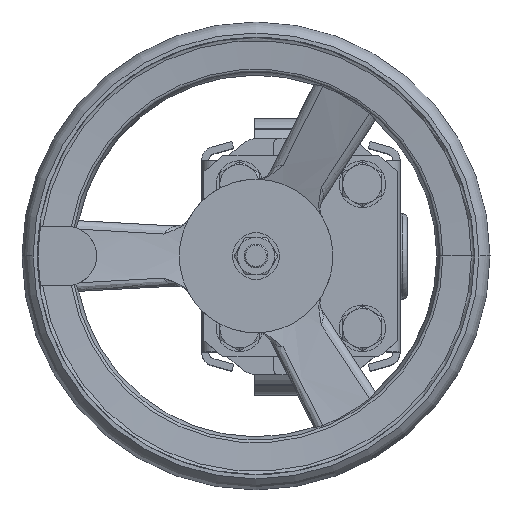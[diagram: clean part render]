
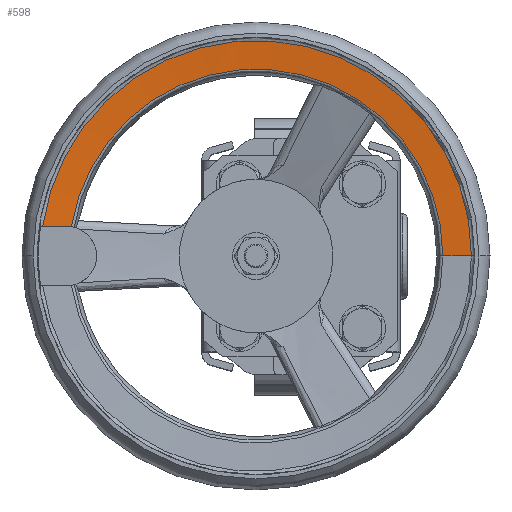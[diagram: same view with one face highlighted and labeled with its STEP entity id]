
A CAD part, top view. The second image highlights one B-rep face of the part: STEP entity #598.
In plain terms, the highlighted conical face has half-angle 85 degrees and reference radius 92.5 mm.
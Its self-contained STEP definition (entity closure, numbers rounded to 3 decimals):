
#598=ADVANCED_FACE('',(#1793),#1794,.F.);
#1793=FACE_OUTER_BOUND('',#3837,.T.);
#1794=CONICAL_SURFACE('',#3838,92.5,1.484);
#3837=EDGE_LOOP('',(#15175,#15176,#15177,#15178,#15179));
#3838=AXIS2_PLACEMENT_3D('',#15180,#15181,#15182);
#15175=ORIENTED_EDGE('',*,*,#21567,.T.);
#15176=ORIENTED_EDGE('',*,*,#21803,.T.);
#15177=ORIENTED_EDGE('',*,*,#21804,.T.);
#15178=ORIENTED_EDGE('',*,*,#21562,.T.);
#15179=ORIENTED_EDGE('',*,*,#21160,.T.);
#15180=CARTESIAN_POINT('',(-19.,0.,296.744));
#15181=DIRECTION('',(0.,0.,1.));
#15182=DIRECTION('',(1.,0.,0.));
#21160=EDGE_CURVE('',#24043,#24041,#24044,.T.);
#21562=EDGE_CURVE('',#24825,#24043,#24826,.T.);
#21567=EDGE_CURVE('',#24041,#24224,#24832,.T.);
#21803=EDGE_CURVE('',#24224,#25251,#25252,.T.);
#21804=EDGE_CURVE('',#25251,#24825,#25253,.T.);
#24041=VERTEX_POINT('',#28136);
#24043=VERTEX_POINT('',#28138);
#24044=CIRCLE('',#28139,79.042);
#24224=VERTEX_POINT('',#28486);
#24825=VERTEX_POINT('',#29476);
#24826=B_SPLINE_CURVE_WITH_KNOTS('',3,(#29477,#29478,#29479,#29480),.UNSPECIFIED.,.F.,.F.,(4,4),(0.001,0.003),.UNSPECIFIED.);
#24832=LINE('',#29520,#29521);
#25251=VERTEX_POINT('',#30485);
#25252=CIRCLE('',#30486,91.131);
#25253=B_SPLINE_CURVE_WITH_KNOTS('',3,(#30487,#30488,#30489,#30490),.UNSPECIFIED.,.F.,.F.,(4,4),(0.014,0.024),.UNSPECIFIED.);
#28136=CARTESIAN_POINT('',(60.042,0.,295.567));
#28138=CARTESIAN_POINT('',(-97.071,12.35,295.567));
#28139=AXIS2_PLACEMENT_3D('',#36210,#36211,#36212);
#28486=CARTESIAN_POINT('',(72.131,0.,296.624));
#29476=CARTESIAN_POINT('',(-99.001,12.5,295.735));
#29477=CARTESIAN_POINT('',(-99.001,12.5,295.735));
#29478=CARTESIAN_POINT('',(-98.355,12.5,295.68));
#29479=CARTESIAN_POINT('',(-97.712,12.45,295.623));
#29480=CARTESIAN_POINT('',(-97.071,12.35,295.567));
#29520=CARTESIAN_POINT('',(73.5,0.,296.744));
#29521=VECTOR('',#36953,1.);
#30485=CARTESIAN_POINT('',(-109.269,12.5,296.624));
#30486=AXIS2_PLACEMENT_3D('',#37302,#37303,#37304);
#30487=CARTESIAN_POINT('',(-109.269,12.5,296.624));
#30488=CARTESIAN_POINT('',(-105.847,12.5,296.328));
#30489=CARTESIAN_POINT('',(-102.424,12.5,296.031));
#30490=CARTESIAN_POINT('',(-99.001,12.5,295.735));
#36210=CARTESIAN_POINT('',(-19.,0.,295.567));
#36211=DIRECTION('',(0.,0.,-1.));
#36212=DIRECTION('',(-1.,0.,0.));
#36953=DIRECTION('',(0.996,0.,0.087));
#37302=CARTESIAN_POINT('',(-19.,0.,296.624));
#37303=DIRECTION('',(0.,0.,1.));
#37304=DIRECTION('',(1.,0.,0.));
